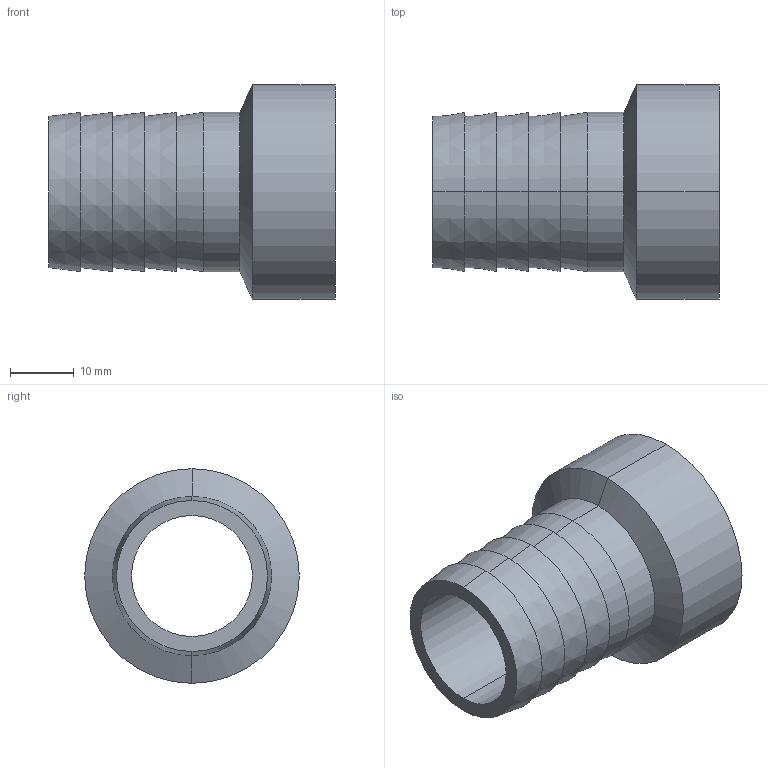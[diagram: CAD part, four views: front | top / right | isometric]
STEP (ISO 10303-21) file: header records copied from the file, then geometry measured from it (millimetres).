
FILE_DESCRIPTION (( 'STEP AP203' ), '1' );
FILE_NAME ('3D_R141-K_33.7-25_171313090.STEP', '2024-08-19T13:41:01', ( '' ), ( '' ), 'SwSTEP 2.0', 'SolidWorks 2024', '' );
FILE_SCHEMA (( 'CONFIG_CONTROL_DESIGN' ));
Length unit declared in the file: millimetre
Products named in the file (1): 3D_R141-K_33.7-25_171313090
Bounding box: 45 x 33.7 x 33.7 mm (x, y, z)
Volume: 9253.6 mm3; surface area: 8098.5 mm2
Topology: 1 solids, 1 shells, 28 faces, 56 edges, 34 vertices
Faces by surface type: cone 14, cylinder 8, plane 6
Entity records: 815 total; most frequent: DIRECTION 148, CARTESIAN_POINT 119, ORIENTED_EDGE 112, AXIS2_PLACEMENT_3D 63, EDGE_CURVE 56, VERTEX_POINT 34, EDGE_LOOP 34, CIRCLE 34
